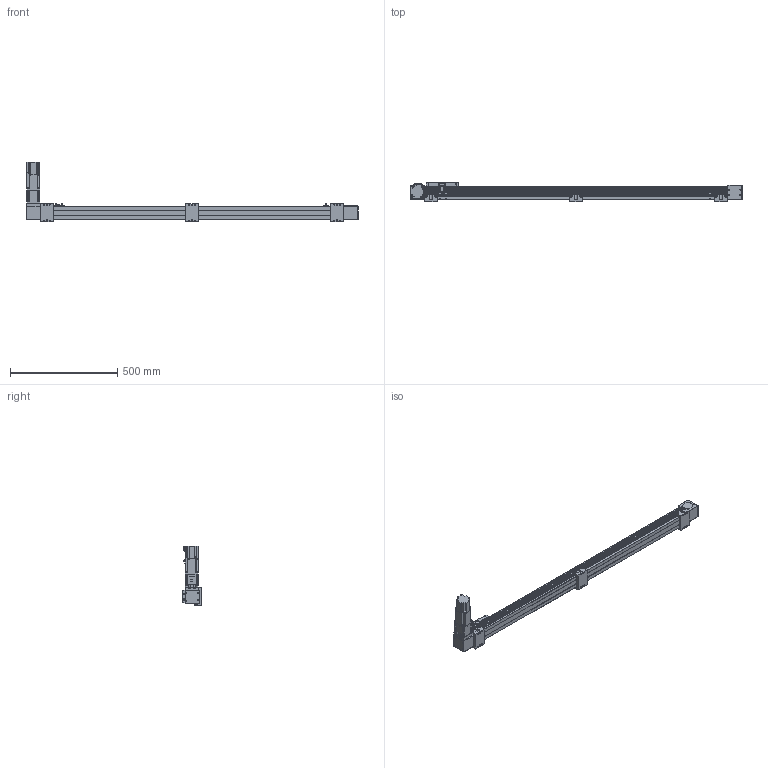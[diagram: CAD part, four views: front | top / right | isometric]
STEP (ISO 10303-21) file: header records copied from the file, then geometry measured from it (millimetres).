
FILE_DESCRIPTION(/* description */ ('STEP AP203'),/* implementation_level */ '2;1');
FILE_NAME(/* name */ 'SK60-P13-S1250-BL-T40-C1-N(0)',/* time_stamp */ '2023-04-06T03:36:51+02:00',/* author */ ('License CC BY-ND 4.0'),/* organization */ ('CADENAS'),/* preprocessor_version */ 'ST-DEVELOPER v19.3',/* originating_system */ 'PARTsolutions',/* authorisation */ ' ');
FILE_SCHEMA (('CONFIG_CONTROL_DESIGN'));
Length unit declared in the file: millimetre
Products named in the file (11): SK60-P13-S1250-BL-T40-C1-N(0); PSC140-sensor; SK60-S450_seat; SK60-S450-BL-C1_slider; SK60_body3; SK60_body6; SK60-BL_body2; T40-p1; SK60_body5; SK60_body4; SK60-S1250-BL-C1_body
Assembly tree (18 placements, depth 2):
  SK60-P13-S1250-BL-T40-C1-N(0)
    PSC140-sensor  x3
    SK60-S450_seat  x3
    SK60-S450-BL-C1_slider
    SK60_body3  x3
    SK60_body6  x2
    SK60-BL_body2  x2
    T40-p1
    SK60_body5
    SK60_body4
    SK60-S1250-BL-C1_body
Bounding box: 1550 x 90 x 278.2 mm (x, y, z)
Volume: 5871190.3 mm3; surface area: 770485.7 mm2
Topology: 18 solids, 22 shells, 878 faces, 2207 edges, 1458 vertices
Faces by surface type: plane 568, cylinder 282, cone 26, torus 2
Full cylindrical faces by diameter (mm): 2.8 x3, 3.3 x4, 4.2 x8, 4.5 x26, 4.6 x3, 4.917 x20, 5 x2, 5.478 x4, 5.5 x23, 6.5 x6, 8 x4, 8.5 x4, 9.988 x4, 10 x12, 13.556 x1, 14 x1, 14.586 x1, 19.692 x1, 38.432 x2, 43 x1, 44 x3, 47 x2, 50 x2
Entity records: 19379 total; most frequent: DIRECTION 3294, CARTESIAN_POINT 3290, ORIENTED_EDGE 3050, EDGE_CURVE 1525, AXIS2_PLACEMENT_3D 1101, LINE 1092, VECTOR 1092, VERTEX_POINT 1077
